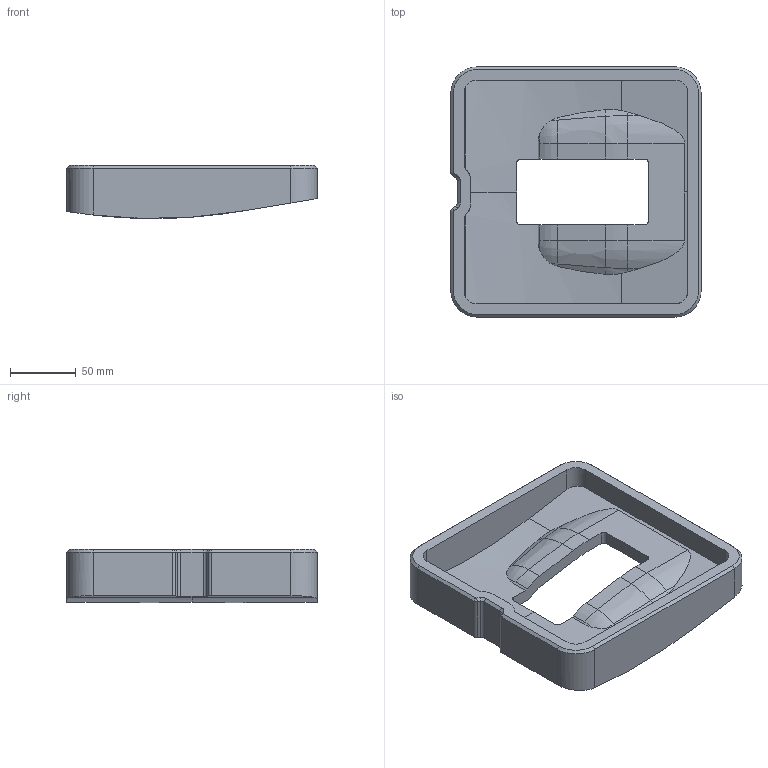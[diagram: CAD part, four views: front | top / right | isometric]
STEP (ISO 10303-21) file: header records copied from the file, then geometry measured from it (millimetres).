
FILE_DESCRIPTION(('CATIA V5 STEP Exchange'),'2;1');
FILE_NAME('C:\Users\nobody\Desktop\SHT0017073_ALL NEW-003 CNC.stp','2025-05-16T06:31:55+00:00',('none'),('none'),'CATIA Version 5 Release 20 GA (IN-10)','CATIA V5 STEP AP203 Edition 2','none');
FILE_SCHEMA(('AP203_CONFIGURATION_CONTROLLED_3D_DESIGN_OF_MECHANICAL_PARTS_AND_ASSEMBLIES_MIM_LF { 1 0 10303 403 2 1 2}'));
Length unit declared in the file: millimetre
Products named in the file (1): SHT0017073_ALL NEW-003 CNC
Bounding box: 190 x 190 x 40.29 mm (x, y, z)
Volume: 474545 mm3; surface area: 104599.7 mm2
Topology: 1 solids, 1 shells, 119 faces, 313 edges, 195 vertices
Faces by surface type: plane 53, cylinder 42, cone 16, revolution 8
Entity records: 3743 total; most frequent: CARTESIAN_POINT 1001, ORIENTED_EDGE 626, DIRECTION 443, EDGE_CURVE 313, VERTEX_POINT 195, AXIS2_PLACEMENT_3D 169, VECTOR 165, LINE 165
